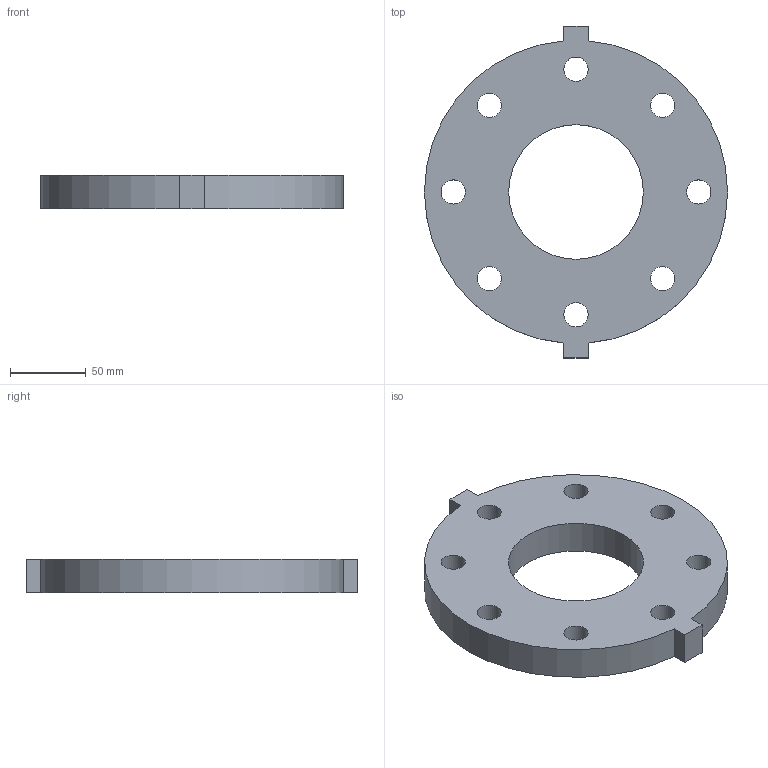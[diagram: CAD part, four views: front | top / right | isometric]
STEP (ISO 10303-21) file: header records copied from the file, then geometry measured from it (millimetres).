
FILE_DESCRIPTION(/* description */ ('VIC FLANGE ADAPTER STYLE 741 PN16 Flanges','CAx-IF Rec.Pracs.---Representation and Presentation of Product Manufacturing Information (PMI)---4.0---2014-10-13'),/* implementation_level */ '2;1');
FILE_NAME(/* name */ 'C:\Users\kkamble\AppData\Roaming\Autodesk\ApplicationPlugins\Back Up\Victaulic_IPS_Flange Adapter_PN16_Style 741 (OGSxFLG)\Victaulic_IPS_Flange Adapter_PN16_Style 741 (OGSxFLG)_3 (80).stp',/* time_stamp */ '2020-07-24T08:16:38+06:00',/* author */ ('jheald'),/* organization */ ('Victaulic'),/* preprocessor_version */ 'ST-DEVELOPER v17.2',/* originating_system */ 'Autodesk Inventor 2019',/* authorisation */ '');
FILE_SCHEMA (('AP242_MANAGED_MODEL_BASED_3D_ENGINEERING_MIM_LF { 1 0 10303 442 1 1 4 }'));
Length unit declared in the file: inch
Products named in the file (1): 741-03.0
Bounding box: 200.15 x 219.2 x 22.35 mm (x, y, z)
Volume: 535573.8 mm3; surface area: 78089 mm2
Topology: 1 solids, 1 shells, 19 faces, 51 edges, 34 vertices
Faces by surface type: cylinder 11, plane 8
Full cylindrical faces by diameter (mm): 16.002 x8, 88.9 x1
Entity records: 703 total; most frequent: DIRECTION 113, CARTESIAN_POINT 105, ORIENTED_EDGE 102, EDGE_CURVE 51, AXIS2_PLACEMENT_3D 42, EDGE_LOOP 37, VERTEX_POINT 34, LINE 29
